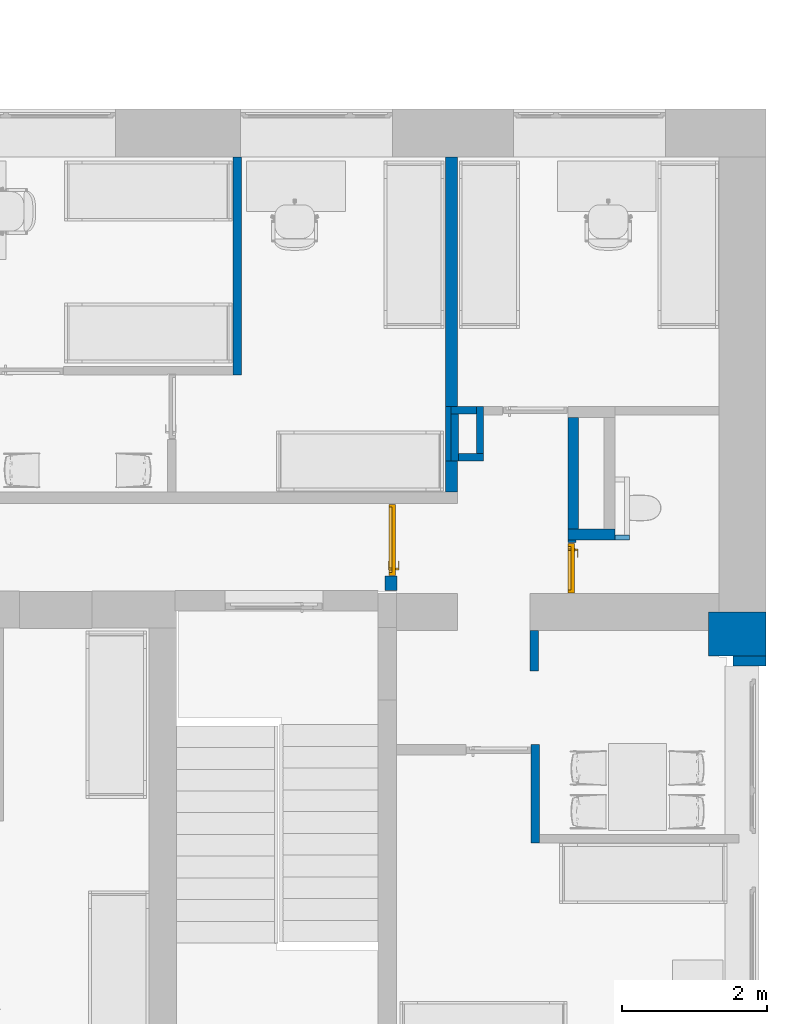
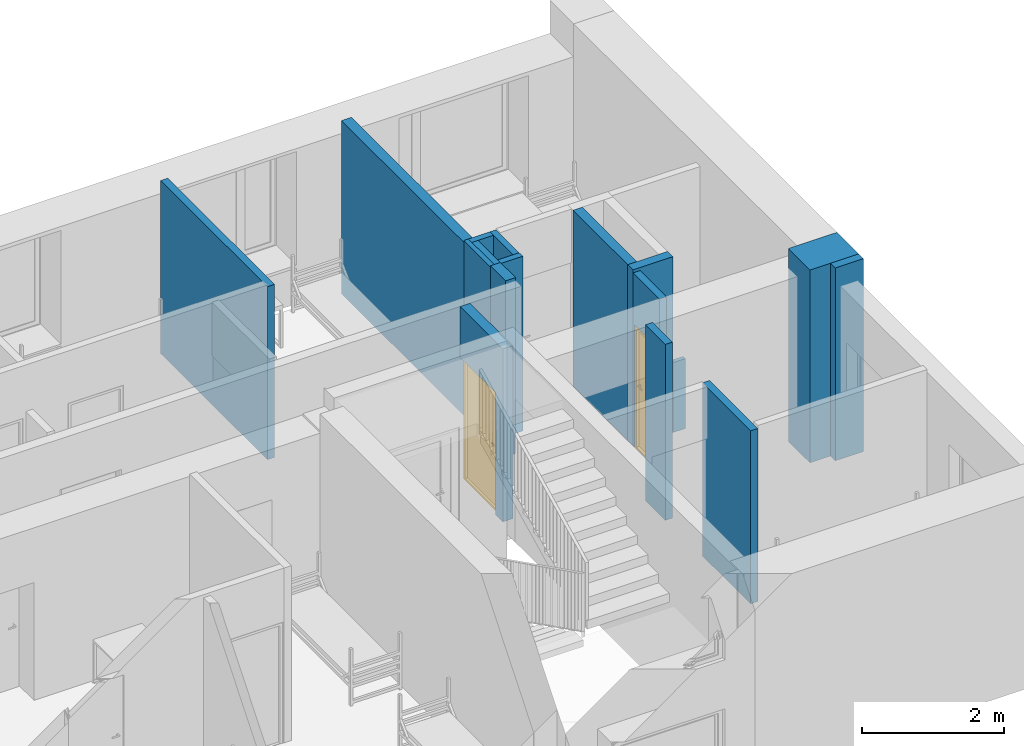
# One storey, part 13 of 48: 17 walls, 2 doors, 8 openings.
"""IFC2X3 building model written with IfcOpenShell, lengths in millimetres."""

from ifc_helpers import new_model, entity, si_unit, converted_unit, derived_unit, direction, frame, frame_2d, origin, place, context, subcontext, project, spatial, rectangle, extrude, faceted_brep, source, transform, mapped, material, material_list, layer, layer_set, layer_usage, type_object, type_shapes, element, fill, save


model = new_model("IFC2X3")

# Units and contexts
model_context = context("Model", 3, precision=0.01, world=origin(), true_north=direction((6.12303176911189e-17, 1.0)))
body_context = subcontext(model_context, "Body", "Model", "MODEL_VIEW")
ifc_project = project(units=[si_unit("LENGTHUNIT", "METRE", prefix="MILLI"), si_unit("AREAUNIT", "SQUARE_METRE"), si_unit("VOLUMEUNIT", "CUBIC_METRE"), converted_unit("PLANEANGLEUNIT", "DEGREE", entity("IfcRatioMeasure", 0.0174532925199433), si_unit("PLANEANGLEUNIT", "RADIAN"), dimensions=[0, 0, 0, 0, 0, 0, 0]), si_unit("MASSUNIT", "GRAM", prefix="KILO"), derived_unit("MASSDENSITYUNIT", [(si_unit("MASSUNIT", "GRAM", prefix="KILO"), 1), (si_unit("LENGTHUNIT", "METRE"), -3)]), si_unit("TIMEUNIT", "SECOND"), si_unit("FREQUENCYUNIT", "HERTZ"), si_unit("THERMODYNAMICTEMPERATUREUNIT", "DEGREE_CELSIUS"), derived_unit("THERMALTRANSMITTANCEUNIT", [(si_unit("MASSUNIT", "GRAM", prefix="KILO"), 1), (si_unit("THERMODYNAMICTEMPERATUREUNIT", "KELVIN"), -1), (si_unit("TIMEUNIT", "SECOND"), -3)]), derived_unit("VOLUMETRICFLOWRATEUNIT", [(si_unit("LENGTHUNIT", "METRE"), 3), (si_unit("TIMEUNIT", "SECOND"), -1)]), si_unit("ELECTRICCURRENTUNIT", "AMPERE"), si_unit("ELECTRICVOLTAGEUNIT", "VOLT"), si_unit("POWERUNIT", "WATT"), si_unit("FORCEUNIT", "NEWTON", prefix="KILO"), si_unit("ILLUMINANCEUNIT", "LUX"), si_unit("LUMINOUSFLUXUNIT", "LUMEN"), si_unit("LUMINOUSINTENSITYUNIT", "CANDELA"), derived_unit("USERDEFINED", [(si_unit("MASSUNIT", "GRAM", prefix="KILO"), -1), (si_unit("LENGTHUNIT", "METRE"), -2), (si_unit("TIMEUNIT", "SECOND"), 3), (si_unit("LUMINOUSFLUXUNIT", "LUMEN"), 1)]), derived_unit("LINEARVELOCITYUNIT", [(si_unit("LENGTHUNIT", "METRE"), 1), (si_unit("TIMEUNIT", "SECOND"), -1)]), si_unit("PRESSUREUNIT", "PASCAL"), derived_unit("USERDEFINED", [(si_unit("LENGTHUNIT", "METRE"), -2), (si_unit("MASSUNIT", "GRAM", prefix="KILO"), 1), (si_unit("TIMEUNIT", "SECOND"), -2)]), derived_unit("LINEARFORCEUNIT", [(si_unit("MASSUNIT", "GRAM", prefix="KILO"), 1), (si_unit("LENGTHUNIT", "METRE"), 1), (si_unit("TIMEUNIT", "SECOND"), -2), (si_unit("LENGTHUNIT", "METRE"), -1)]), derived_unit("PLANARFORCEUNIT", [(si_unit("MASSUNIT", "GRAM", prefix="KILO"), 1), (si_unit("LENGTHUNIT", "METRE"), 1), (si_unit("TIMEUNIT", "SECOND"), -2), (si_unit("LENGTHUNIT", "METRE"), -2)])], contexts=[model_context])

# Site, building, storey
site_placement = place(None, origin())
site = spatial("IfcSite", under=ifc_project, at=site_placement, Name="Default", CompositionType="ELEMENT")
building_placement = place(site_placement, origin())
building = spatial("IfcBuilding", under=site, at=building_placement, Name="SMA ARH", CompositionType="ELEMENT")
storey_placement = place(building_placement, frame((0.0, 0.0, 6600.0)))
storey = spatial("IfcBuildingStorey", under=building, at=storey_placement, Name="3 Korrus", CompositionType="ELEMENT", Elevation=6599.99999999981)

# Wall, opening
ifc_material_1 = material(Name="EST. Müüritis. Väikeplokk. Kergkruusplokk")
ifc_layer_1 = layer(ifc_material_1, 150.0)
ifc_layer_set_1 = layer_set([ifc_layer_1], Name="Basic Wall:SS-02_ 150mm šahtide vahesein")
ifc_layer_usage_1 = layer_usage(ifc_layer_set_1, "AXIS2", "POSITIVE", -75.0)
wall_type_1 = type_object("IfcWallType", Name="Basic Wall:SS-02_ 150mm šahtide vahesein", PredefinedType="STANDARD", material=ifc_layer_set_1)
wall_1_placement = place(storey_placement, frame((36880.0, 7295.0, 0.0), z_axis=(0.0, 0.0, 1.0), x_axis=(-1.0, 0.0, 0.0)))
wall_1 = element("IfcWallStandardCase", 1, at=wall_1_placement, inside=storey, type_object=wall_type_1, material=ifc_layer_usage_1, Name="Basic Wall:SS-02_ 150mm šahtide vahesein", ObjectType="Basic Wall:SS-02_ 150mm šahtide vahesein", context=body_context, shape_type="SweptSolid", body=[
    extrude(rectangle(XDim=649.999999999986, YDim=150.000000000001, at=frame_2d((324.999999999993, 4.68958205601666e-13), x_axis=(-1.0, 0.0))), origin(), (0.0, 0.0, 1.0), 3019.99999999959),
])
opening_1_placement = place(wall_1_placement, origin())
element("IfcOpeningElement", 2, at=opening_1_placement, cuts=wall_1, Name="Basic Wall:SS-02_ 150mm šahtide vahesein", ObjectType="Opening", context=body_context, shape_type="SweptSolid", body=[
    extrude(rectangle(XDim=2099.99999999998, YDim=116.0, at=frame_2d((0.0, -5.6843418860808e-13), x_axis=(0.0, 1.0))), frame((592.0, 115.000009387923, 1050.0), z_axis=(0.0, 1.0, 0.0), x_axis=(-1.0, 0.0, 0.0)), (0.0, 0.0, 1.0), 700.0),
])

# Wall, openings
ifc_layer_usage_2 = layer_usage(ifc_layer_set_1, "AXIS2", "POSITIVE", -75.0)
wall_2_placement = place(storey_placement, frame((36305.0, 7370.0, 0.0), z_axis=(0.0, 0.0, 1.0), x_axis=(0.0, 1.0, 0.0)))
wall_2 = element("IfcWallStandardCase", 3, at=wall_2_placement, inside=storey, type_object=wall_type_1, material=ifc_layer_usage_2, Name="Basic Wall:SS-02_ 150mm šahtide vahesein", ObjectType="Basic Wall:SS-02_ 150mm šahtide vahesein", context=body_context, shape_type="SweptSolid", body=[
    extrude(rectangle(XDim=1539.50139590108, YDim=150.000000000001, at=frame_2d((769.75069795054, 0.0), x_axis=(-1.0, 0.0))), origin(), (0.0, 0.0, 1.0), 3019.99999999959),
])
opening_2_placement = place(wall_2_placement, origin())
element("IfcOpeningElement", 4, at=opening_2_placement, cuts=wall_2, Name="Basic Wall:SS-02_ 150mm šahtide vahesein", ObjectType="Opening", context=body_context, shape_type="SweptSolid", body=[
    extrude(rectangle(XDim=2099.99999999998, YDim=116.0, at=frame_2d((0.0, 5.6843418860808e-13), x_axis=(0.0, 1.0))), frame((1631.50139590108, 75.0, 1050.0), z_axis=(0.0, 1.0, 0.0), x_axis=(1.0, 0.0, 0.0)), (0.0, 0.0, 1.0), 899.999999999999),
])
opening_3_placement = place(wall_2_placement, origin())
element("IfcOpeningElement", 5, at=opening_3_placement, cuts=wall_2, Name="Basic Wall:SS-02_ 150mm šahtide vahesein", ObjectType="Opening", context=body_context, shape_type="SweptSolid", body=[
    extrude(rectangle(XDim=2099.99999999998, YDim=700.0, at=frame_2d((-5.6843418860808e-13, -5.40012479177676e-13), x_axis=(1.0, 0.0))), frame((-540.000009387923, -1449.0, 1050.0), z_axis=(0.0, 1.0, 0.0), x_axis=(0.0, 0.0, 1.0)), (0.0, 0.0, 1.0), 3048.0),
])

# Wall, opening
ifc_material_2 = material(Name="_ol.olev sein")
ifc_layer_2 = layer(ifc_material_2, 790.0)
ifc_layer_set_2 = layer_set([ifc_layer_2], Name="Basic Wall:Generic - 790mm")
ifc_layer_usage_3 = layer_usage(ifc_layer_set_2, "AXIS2", "NEGATIVE", 395.0)
wall_type_2 = type_object("IfcWallType", Name="Basic Wall:Generic - 790mm", PredefinedType="STANDARD", material=ifc_layer_set_2)
wall_3_placement = place(storey_placement, frame((38570.0, 6225.0, 0.0), z_axis=(0.0, 0.0, 1.0), x_axis=(0.0, -1.0, 0.0)))
wall_3 = element("IfcWallStandardCase", 6, at=wall_3_placement, inside=storey, type_object=wall_type_2, material=ifc_layer_usage_3, Name="Basic Wall:Generic - 790mm", ObjectType="Basic Wall:Generic - 790mm", context=body_context, shape_type="SweptSolid", body=[
    extrude(rectangle(XDim=609.99999999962, YDim=790.000000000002, at=frame_2d((304.99999999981, 0.0), x_axis=(-1.0, 0.0))), origin(), (0.0, 0.0, 1.0), 3309.99999999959),
])
opening_4_placement = place(wall_3_placement, origin())
element("IfcOpeningElement", 7, at=opening_4_placement, cuts=wall_3, Name="Basic Wall:Generic - 790mm", ObjectType="Opening", context=body_context, shape_type="SweptSolid", body=[
    extrude(rectangle(XDim=1300.0, YDim=2130.0, at=frame_2d((5.11590769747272e-13, 5.6843418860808e-13), x_axis=(1.0, 0.0))), frame((1990.0, -1504.09900086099, 1450.0), z_axis=(0.0, 1.0, 0.0), x_axis=(0.0, 0.0, 1.0)), (0.0, 0.0, 1.0), 3048.0),
])

ifc_layer_3 = layer(ifc_material_2, 457.0)
ifc_layer_set_3 = layer_set([ifc_layer_3], Name="Basic Wall:Generic - 457mm")
ifc_layer_usage_4 = layer_usage(ifc_layer_set_3, "AXIS2", "NEGATIVE", 228.5)
wall_type_3 = type_object("IfcWallType", Name="Basic Wall:Generic - 457mm", PredefinedType="STANDARD", material=ifc_layer_set_3)
wall_4_placement = place(storey_placement, frame((38736.5990008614, 5615.0, 0.0), z_axis=(0.0, 0.0, 1.0), x_axis=(0.0, -1.0, 0.0)))
wall_4 = element("IfcWallStandardCase", 8, at=wall_4_placement, inside=storey, type_object=wall_type_3, material=ifc_layer_usage_4, Name="Basic Wall:Generic - 457mm", ObjectType="Basic Wall:Generic - 457mm", context=body_context, shape_type="SweptSolid", body=[
    extrude(rectangle(XDim=135.000000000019, YDim=457.0, at=frame_2d((67.5000000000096, 0.0), x_axis=(-1.0, 0.0))), origin(), (0.0, 0.0, 1.0), 3309.99999999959),
])
opening_5_placement = place(wall_4_placement, origin())
element("IfcOpeningElement", 9, at=opening_5_placement, cuts=wall_4, Name="Basic Wall:Generic - 457mm", ObjectType="Opening", context=body_context, shape_type="SweptSolid", body=[
    extrude(rectangle(XDim=1300.0, YDim=2130.0, at=frame_2d((5.11590769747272e-13, 5.6843418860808e-13), x_axis=(1.0, 0.0))), frame((1380.0, -1670.69800172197, 1450.0), z_axis=(0.0, 1.0, 0.0), x_axis=(0.0, 0.0, 1.0)), (0.0, 0.0, 1.0), 3048.0),
])

# Wall, opening, door
ifc_material_3 = material(Name="EST. Ehitusplaat. Kipsplaat")
ifc_layer_4 = layer(ifc_material_3, 12.5)
ifc_layer_5 = layer(ifc_material_3, 12.5)
ifc_material_4 = material(Name="EST. Soojustus. Mineraalvill. Default")
ifc_layer_6 = layer(ifc_material_4, 50.0)
ifc_layer_7 = layer(ifc_material_3, 12.5)
ifc_layer_8 = layer(ifc_material_4, 50.0)
ifc_layer_9 = layer(ifc_material_3, 12.5)
ifc_layer_10 = layer(ifc_material_3, 12.5)
ifc_layer_set_4 = layer_set([ifc_layer_4, ifc_layer_5, ifc_layer_6, ifc_layer_7, ifc_layer_8, ifc_layer_9, ifc_layer_10], Name="Basic Wall:SS-04_Kips, 50+50 mm metallkarkass 2")
ifc_layer_usage_5 = layer_usage(ifc_layer_set_4, "AXIS2", "NEGATIVE", 81.25)
wall_type_4 = type_object("IfcWallType", Name="Basic Wall:SS-04_Kips, 50+50 mm metallkarkass 2", PredefinedType="STANDARD", material=ifc_layer_set_4)
wall_5_placement = place(storey_placement, frame((33792.5000000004, 7720.0, 0.0), z_axis=(0.0, 0.0, 1.0), x_axis=(0.0, -1.0, 0.0)))
wall_5 = element("IfcWallStandardCase", 10, at=wall_5_placement, inside=storey, type_object=wall_type_4, material=ifc_layer_usage_5, Name="Basic Wall:SS-04_Kips, 50+50 mm metallkarkass 2", ObjectType="Basic Wall:SS-04_Kips, 50+50 mm metallkarkass 2", context=body_context, shape_type="SweptSolid", body=[
    extrude(rectangle(XDim=1200.00000000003, YDim=162.499999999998, at=frame_2d((600.000000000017, 0.0), x_axis=(-1.0, 0.0))), origin(), (0.0, 0.0, 1.0), 2970.00000000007),
])
opening_6_placement = place(wall_5_placement, frame((0.0, -81.2499999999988, 0.0)))
opening_6 = element("IfcOpeningElement", 11, at=opening_6_placement, cuts=wall_5, Name="SMA_D01, 1-poolne:SU-P-04 - 1000x2100 EI-30:1", ObjectType="Opening", context=body_context, shape_type="SweptSolid", body=[
    extrude(rectangle(XDim=2099.99999999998, YDim=1000.0, at=frame_2d((1049.99999999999, 500.0), x_axis=(1.0, 0.0))), frame((0.0, 0.0, 0.0), z_axis=(0.0, 1.0, 0.0), x_axis=(0.0, 0.0, 1.0)), (0.0, 0.0, 1.0), 162.5),
])
ifc_material_5 = material(Name="EST. Metall. Alumiinium. Värvitud. RAL7023 (Concrete grey)")
ifc_material_6 = material(Name="<Unnamed>")
ifc_material_7 = material(Name="EST. Klaas. 3x. Default")
ifc_material_list_1 = material_list([ifc_material_5, ifc_material_5, ifc_material_5, ifc_material_6, ifc_material_7, ifc_material_6, ifc_material_6])
door_style_1 = type_object("IfcDoorStyle", Name="SMA_D01, 1-poolne:SU-P-04 - 1000x2100 EI-30", ConstructionType="NOTDEFINED", OperationType="SINGLE_SWING_LEFT", ParameterTakesPrecedence=False, Sizeable=False, material=ifc_material_list_1)
shared_shape_1 = source(origin(), body_context, "Body", "Brep", [
    faceted_brep([(890.0, 52.5000000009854, 1112.5), (795.0, 52.5000000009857, 1112.5), (795.0, 47.5000000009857, 1112.5), (915.0, 47.5000000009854, 1112.5), (915.0, 90.5000000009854, 1112.5), (890.0, 90.5000000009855, 1112.5), (890.0, 52.5000000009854, 1087.5), (890.0, 90.5000000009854, 1087.5), (915.0, 90.5000000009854, 1087.5), (915.0, 47.5000000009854, 1087.5), (795.0, 47.5000000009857, 1087.5), (795.0, 52.5000000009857, 1087.5)], [[[0, 1, 2, 3, 4, 5]], [[6, 7, 8, 9, 10, 11]], [[5, 7, 6, 0]], [[4, 8, 7, 5]], [[3, 9, 8, 4]], [[2, 10, 9, 3]], [[1, 11, 10, 2]], [[0, 6, 11, 1]]]),
    faceted_brep([(877.500000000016, 90.5000000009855, 1137.5), (927.500000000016, 90.5000000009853, 1137.5), (927.500000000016, 92.5000000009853, 1137.5), (877.500000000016, 92.5000000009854, 1137.5), (877.500000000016, 90.5000000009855, 1017.5), (877.500000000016, 92.5000000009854, 1017.5), (927.500000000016, 92.5000000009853, 1017.5), (927.500000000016, 90.5000000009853, 1017.5)], [[[0, 1, 2, 3]], [[4, 5, 6, 7]], [[3, 5, 4, 0]], [[2, 6, 5, 3]], [[1, 7, 6, 2]], [[0, 4, 7, 1]]]),
    faceted_brep([(890.0, 182.500000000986, 1112.5), (890.0, 144.500000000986, 1112.5), (915.0, 144.500000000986, 1112.5), (915.0, 187.500000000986, 1112.5), (795.0, 187.500000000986, 1112.5), (795.0, 182.500000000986, 1112.5), (890.0, 182.500000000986, 1087.5), (795.0, 182.500000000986, 1087.5), (795.0, 187.500000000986, 1087.5), (915.0, 187.500000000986, 1087.5), (915.0, 144.500000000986, 1087.5), (890.0, 144.500000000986, 1087.5)], [[[0, 1, 2, 3, 4, 5]], [[6, 7, 8, 9, 10, 11]], [[1, 0, 6, 11]], [[2, 1, 11, 10]], [[3, 2, 10, 9]], [[4, 3, 9, 8]], [[5, 4, 8, 7]], [[0, 5, 7, 6]]]),
    faceted_brep([(877.500000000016, 144.500000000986, 1137.5), (877.500000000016, 142.500000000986, 1137.5), (927.500000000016, 142.500000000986, 1137.5), (927.500000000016, 144.500000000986, 1137.5), (877.500000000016, 144.500000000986, 1017.5), (927.500000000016, 144.500000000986, 1017.5), (927.500000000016, 142.500000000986, 1017.5), (877.500000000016, 142.500000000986, 1017.5)], [[[0, 1, 2, 3]], [[4, 5, 6, 7]], [[1, 0, 4, 7]], [[2, 1, 7, 6]], [[3, 2, 6, 5]], [[0, 3, 5, 4]]]),
    faceted_brep([(50.0, 52.5000000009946, 30.0), (50.0, 92.5000000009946, 30.0), (50.0, 92.5000000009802, 20.0), (50.0, 92.5000000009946, 0.0), (50.0, 52.5000000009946, 0.0), (950.0, 52.5000000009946, 30.0), (950.0, 52.5000000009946, 0.0), (950.0, 92.5000000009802, 0.0), (950.0, 92.5000000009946, 20.0), (950.0, 92.5000000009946, 30.0), (35.0, 92.5000000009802, 0.0), (35.0, 142.500000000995, 0.0), (965.0, 142.500000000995, 0.0), (965.0, 92.5000000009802, 0.0), (35.0, 142.500000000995, 20.0), (35.0, 92.5000000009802, 20.0), (965.0, 142.500000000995, 20.0), (965.0, 92.5000000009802, 20.0)], [[[0, 1, 2, 3, 4]], [[5, 6, 7, 8, 9]], [[4, 6, 5, 0]], [[3, 10, 11, 12, 13, 7, 6, 4]], [[9, 8, 2, 1]], [[0, 5, 9, 1]], [[14, 11, 10, 15]], [[16, 17, 13, 12]], [[15, 2, 8, 17, 16, 14]], [[10, 3, 2, 15]], [[14, 16, 12, 11]], [[17, 8, 7, 13]]]),
    faceted_brep([(10.0, 52.5000000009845, 0.0), (10.0, 142.500000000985, 0.0), (35.0, 142.500000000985, 0.0), (35.0, 92.5000000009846, 0.0), (50.0, 92.5000000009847, 0.0), (50.0, 52.5000000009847, 0.0), (50.0, 52.5000000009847, 2050.0), (950.0, 52.5000000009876, 2050.0), (950.0, 52.5000000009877, 0.0), (990.0, 52.5000000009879, 0.0), (990.0, 52.5000000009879, 2090.0), (10.0, 52.5000000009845, 2090.0), (50.0, 92.5000000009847, 2050.0), (35.0, 92.5000000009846, 2065.0), (965.0, 92.5000000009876, 2065.0), (965.0, 92.5000000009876, 0.0), (950.0, 92.5000000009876, 0.0), (950.0, 92.5000000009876, 2050.0), (35.0, 142.500000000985, 2065.0), (10.0, 142.500000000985, 2090.0), (990.0, 142.500000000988, 2090.0), (990.0, 142.500000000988, 0.0), (965.0, 142.500000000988, 0.0), (965.0, 142.500000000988, 2065.0)], [[[0, 1, 2, 3, 4, 5]], [[5, 6, 7, 8, 9, 10, 11, 0]], [[4, 12, 6, 5]], [[3, 13, 14, 15, 16, 17, 12, 4]], [[2, 18, 13, 3]], [[1, 19, 20, 21, 22, 23, 18, 2]], [[0, 11, 19, 1]], [[9, 21, 20, 10]], [[8, 16, 15, 22, 21, 9]], [[7, 17, 16, 8]], [[14, 23, 22, 15]], [[6, 12, 17, 7]], [[13, 18, 23, 14]], [[10, 20, 19, 11]]]),
    faceted_brep([(965.0, 92.5000000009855, 2065.0), (35.0, 92.5000000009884, 2065.0), (35.0, 92.5000000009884, 20.0), (965.0, 92.5000000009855, 20.0), (965.0, 142.500000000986, 2065.0), (965.0, 142.500000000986, 20.0), (35.0, 142.500000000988, 20.0), (35.0, 142.500000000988, 2065.0)], [[[0, 1, 2, 3]], [[4, 5, 6, 7]], [[3, 5, 4, 0]], [[2, 6, 5, 3]], [[1, 7, 6, 2]], [[0, 4, 7, 1]]]),
])
type_shapes(door_style_1, [shared_shape_1])
door_1_placement = place(opening_6_placement, origin())
door_1 = element("IfcDoor", 12, at=door_1_placement, inside=storey, type_object=door_style_1, material=ifc_material_5, Name="SMA_D01, 1-poolne:SU-P-04 - 1000x2100 EI-30", ObjectType="SMA_D01, 1-poolne:SU-P-04 - 1000x2100 EI-30", OverallHeight=2099.99999999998, OverallWidth=999.999999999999, context=body_context, shape_type="MappedRepresentation", body=[
    mapped(shared_shape_1, transform((0.0, 0.0, 0.0), scale=1.0)),
])
fill(opening_6, door_1)

# Walls
ifc_layer_usage_6 = layer_usage(ifc_layer_set_4, "AXIS2", "NEGATIVE", 81.25)
wall_6_placement = place(storey_placement, frame((34625.5000000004, 12500.0, 0.0), z_axis=(0.0, 0.0, 1.0), x_axis=(0.0, -1.0, 0.0)))
element("IfcWallStandardCase", 13, at=wall_6_placement, inside=storey, type_object=wall_type_4, material=ifc_layer_usage_6, Name="Basic Wall:SS-04_Kips, 50+50 mm metallkarkass 2", ObjectType="Basic Wall:SS-04_Kips, 50+50 mm metallkarkass 2", context=body_context, shape_type="SweptSolid", body=[
    extrude(rectangle(XDim=3440.49859471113, YDim=162.499999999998, at=frame_2d((1720.24929735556, 1.70530256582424e-13), x_axis=(-1.0, 0.0))), origin(), (0.0, 0.0, 1.0), 2970.00000000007),
])
ifc_layer_usage_7 = layer_usage(ifc_layer_set_4, "AXIS2", "NEGATIVE", 81.25)
wall_7_placement = place(storey_placement, frame((34625.5000000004, 8309.50140528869, 0.0), z_axis=(0.0, 0.0, 1.0), x_axis=(0.0, -1.0, 0.0)))
element("IfcWallStandardCase", 14, at=wall_7_placement, inside=storey, type_object=wall_type_4, material=ifc_layer_usage_7, Name="Basic Wall:SS-04_Kips, 50+50 mm metallkarkass 2", ObjectType="Basic Wall:SS-04_Kips, 50+50 mm metallkarkass 2", context=body_context, shape_type="SweptSolid", body=[
    extrude(rectangle(XDim=427.001405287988, YDim=162.499999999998, at=frame_2d((213.500702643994, 0.0), x_axis=(-1.0, 0.0))), origin(), (0.0, 0.0, 1.0), 3019.99999999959),
])
ifc_layer_11 = layer(ifc_material_3, 12.5)
ifc_layer_12 = layer(ifc_material_3, 12.5)
ifc_layer_13 = layer(ifc_material_4, 66.0)
ifc_layer_14 = layer(ifc_material_3, 12.5)
ifc_layer_15 = layer(ifc_material_3, 12.5)
ifc_layer_set_5 = layer_set([ifc_layer_11, ifc_layer_12, ifc_layer_13, ifc_layer_14, ifc_layer_15], Name="Basic Wall:SS-05_Kips, 66mm metallkarkass")
ifc_layer_usage_8 = layer_usage(ifc_layer_set_5, "AXIS2", "NEGATIVE", 58.0)
wall_type_5 = type_object("IfcWallType", Name="Basic Wall:SS-05_Kips, 66mm metallkarkass", PredefinedType="STANDARD", material=ifc_layer_set_5)
wall_8_placement = place(storey_placement, frame((31667.5000000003, 12500.0, 0.0), z_axis=(0.0, 0.0, 1.0), x_axis=(0.0, -1.0, 0.0)))
element("IfcWallStandardCase", 15, at=wall_8_placement, inside=storey, type_object=wall_type_5, material=ifc_layer_usage_8, Name="Basic Wall:SS-05_Kips, 66mm metallkarkass", ObjectType="Basic Wall:SS-05_Kips, 66mm metallkarkass", context=body_context, shape_type="SweptSolid", body=[
    extrude(rectangle(XDim=3005.49999999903, YDim=116.0, at=frame_2d((1502.74999999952, -1.27897692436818e-13), x_axis=(-1.0, 0.0))), origin(), (0.0, 0.0, 1.0), 2970.00000000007),
])

# Wall, opening
ifc_layer_usage_9 = layer_usage(ifc_layer_set_5, "AXIS2", "NEGATIVE", 58.0)
wall_9_placement = place(storey_placement, frame((35783.5000000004, 3039.50000000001, 0.0), z_axis=(0.0, 0.0, 1.0), x_axis=(0.0, 1.0, 0.0)))
wall_9 = element("IfcWallStandardCase", 16, at=wall_9_placement, inside=storey, type_object=wall_type_5, material=ifc_layer_usage_9, Name="Basic Wall:SS-05_Kips, 66mm metallkarkass", ObjectType="Basic Wall:SS-05_Kips, 66mm metallkarkass", context=body_context, shape_type="SweptSolid", body=[
    extrude(rectangle(XDim=1358.99999999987, YDim=116.0, at=frame_2d((679.499999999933, 0.0), x_axis=(-1.0, 0.0))), origin(), (0.0, 0.0, 1.0), 2970.00000000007),
])
opening_7_placement = place(wall_9_placement, origin())
element("IfcOpeningElement", 17, at=opening_7_placement, cuts=wall_9, Name="Basic Wall:SS-05_Kips, 66mm metallkarkass", ObjectType="Opening", context=body_context, shape_type="SweptSolid", body=[
    extrude(rectangle(XDim=2099.99999999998, YDim=145.0, at=frame_2d((2.70006239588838e-13, 5.6843418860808e-13), x_axis=(0.0, 1.0))), frame((1286.49999999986, 58.0, 1050.0), z_axis=(0.0, 1.0, 0.0), x_axis=(1.0, 0.0, 0.0)), (0.0, 0.0, 1.0), 900.000000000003),
])

# Wall
ifc_layer_16 = layer(ifc_material_3, 12.5)
ifc_layer_17 = layer(ifc_material_3, 12.5)
ifc_material_8 = material(Name="EST. Õhkvahe. Roov. Kipsplaadi alusroov. Vertikaalne")
ifc_layer_18 = layer(ifc_material_8, 66.0)
ifc_layer_19 = layer(ifc_material_3, 12.5)
ifc_layer_20 = layer(ifc_material_3, 12.5)
ifc_layer_set_6 = layer_set([ifc_layer_16, ifc_layer_17, ifc_layer_18, ifc_layer_19, ifc_layer_20], Name="Basic Wall:SS-03_Kips, 66mm metallkarkass")
ifc_layer_usage_10 = layer_usage(ifc_layer_set_6, "AXIS2", "NEGATIVE", 58.0)
wall_type_6 = type_object("IfcWallType", Name="Basic Wall:SS-03_Kips, 66mm metallkarkass", PredefinedType="STANDARD", material=ifc_layer_set_6)
wall_10_placement = place(storey_placement, frame((35768.0, 5970.0, 0.0), z_axis=(0.0, 0.0, 1.0), x_axis=(0.0, -1.0, 0.0)))
element("IfcWallStandardCase", 18, at=wall_10_placement, inside=storey, type_object=wall_type_6, material=ifc_layer_usage_10, Name="Basic Wall:SS-03_Kips, 66mm metallkarkass", ObjectType="Basic Wall:SS-03_Kips, 66mm metallkarkass", context=body_context, shape_type="SweptSolid", body=[
    extrude(rectangle(XDim=559.999999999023, YDim=116.0, at=frame_2d((279.999999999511, 0.0), x_axis=(-1.0, 0.0))), origin(), (0.0, 0.0, 1.0), 3019.99999999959),
])

# Wall, opening, door
ifc_layer_usage_11 = layer_usage(ifc_layer_set_6, "AXIS2", "NEGATIVE", 58.0)
wall_11_placement = place(storey_placement, frame((36288.0, 7220.0, 0.0), z_axis=(0.0, 0.0, 1.0), x_axis=(0.0, -1.0, 0.0)))
wall_11 = element("IfcWallStandardCase", 19, at=wall_11_placement, inside=storey, type_object=wall_type_6, material=ifc_layer_usage_11, Name="Basic Wall:SS-03_Kips, 66mm metallkarkass", ObjectType="Basic Wall:SS-03_Kips, 66mm metallkarkass", context=body_context, shape_type="SweptSolid", body=[
    extrude(rectangle(XDim=740.000009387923, YDim=116.0, at=frame_2d((370.000004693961, 0.0), x_axis=(-1.0, 0.0))), origin(), (0.0, 0.0, 1.0), 2970.00000000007),
])
opening_8_placement = place(wall_11_placement, frame((40.0, -58.0, 0.0)))
opening_8 = element("IfcOpeningElement", 20, at=opening_8_placement, cuts=wall_11, Name="SMA_D01, 1-poolne:SU-P-08 - 700x2100 DUŠŠ:1", ObjectType="Opening", context=body_context, shape_type="SweptSolid", body=[
    extrude(rectangle(XDim=2099.99999999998, YDim=700.0, at=frame_2d((1049.99999999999, 350.0), x_axis=(1.0, 0.0))), frame((0.0, 0.0, 0.0), z_axis=(0.0, 1.0, 0.0), x_axis=(0.0, 0.0, 1.0)), (0.0, 0.0, 1.0), 116.0),
])
ifc_material_list_2 = material_list([ifc_material_5, ifc_material_7, ifc_material_6, ifc_material_5, ifc_material_6, ifc_material_6, ifc_material_5])
door_style_2 = type_object("IfcDoorStyle", Name="SMA_D01, 1-poolne:SU-P-08 - 700x2100 DUŠŠ", ConstructionType="NOTDEFINED", OperationType="NOTDEFINED", ParameterTakesPrecedence=False, Sizeable=False, material=ifc_material_list_2)
shared_shape_2 = source(origin(), body_context, "Body", "Brep", [
    faceted_brep([(110.0, 6.0, 1112.5), (110.0, 44.0, 1112.5), (85.0, 44.0, 1112.5), (85.0, 1.0, 1112.5), (205.0, 1.0, 1112.5), (205.0, 6.0, 1112.5), (110.0, 6.0, 1087.5), (205.0, 6.0, 1087.5), (205.0, 1.0, 1087.5), (85.0, 1.0, 1087.5), (85.0, 44.0, 1087.5), (110.0, 44.0, 1087.5)], [[[0, 1, 2, 3, 4, 5]], [[6, 7, 8, 9, 10, 11]], [[1, 0, 6, 11]], [[2, 1, 11, 10]], [[3, 2, 10, 9]], [[4, 3, 9, 8]], [[5, 4, 8, 7]], [[0, 5, 7, 6]]]),
    faceted_brep([(122.5, 44.0, 1137.5), (122.5, 46.0, 1137.5), (72.4999999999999, 46.0, 1137.5), (72.4999999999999, 44.0, 1137.5), (122.5, 44.0, 1017.5), (72.4999999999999, 44.0, 1017.5), (72.4999999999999, 46.0, 1017.5), (122.5, 46.0, 1017.5)], [[[0, 1, 2, 3]], [[4, 5, 6, 7]], [[1, 0, 4, 7]], [[2, 1, 7, 6]], [[3, 2, 6, 5]], [[0, 3, 5, 4]]]),
    faceted_brep([(110.0, 136.0, 1112.5), (205.0, 136.0, 1112.5), (205.0, 141.0, 1112.5), (85.0, 141.0, 1112.5), (85.0, 98.0, 1112.5), (110.0, 98.0, 1112.5), (110.0, 136.0, 1087.5), (110.0, 98.0, 1087.5), (85.0, 98.0, 1087.5), (85.0, 141.0, 1087.5), (205.0, 141.0, 1087.5), (205.0, 136.0, 1087.5)], [[[0, 1, 2, 3, 4, 5]], [[6, 7, 8, 9, 10, 11]], [[5, 7, 6, 0]], [[4, 8, 7, 5]], [[3, 9, 8, 4]], [[2, 10, 9, 3]], [[1, 11, 10, 2]], [[0, 6, 11, 1]]]),
    faceted_brep([(122.5, 98.0, 1137.5), (72.4999999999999, 98.0, 1137.5), (72.4999999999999, 96.0, 1137.5), (122.5, 96.0, 1137.5), (122.5, 98.0, 1017.5), (122.5, 96.0, 1017.5), (72.4999999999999, 96.0, 1017.5), (72.4999999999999, 98.0, 1017.5)], [[[0, 1, 2, 3]], [[4, 5, 6, 7]], [[3, 5, 4, 0]], [[2, 6, 5, 3]], [[1, 7, 6, 2]], [[0, 4, 7, 1]]]),
    faceted_brep([(650.0, 6.0, 30.0), (650.0, 6.0, 0.0), (650.0, 46.0, 0.0), (650.0, 46.0, 20.0), (650.0, 46.0, 30.0), (50.0, 6.0, 30.0), (50.0, 46.0, 30.0), (50.0, 46.0, 20.0), (50.0, 46.0, 0.0), (50.0, 6.0, 0.0), (35.0, 46.0, 0.0), (35.0, 96.0, 0.0), (665.0, 96.0, 0.0), (665.0, 46.0, 0.0), (665.0, 96.0, 20.0), (665.0, 46.0, 20.0), (35.0, 96.0, 20.0), (35.0, 46.0, 20.0)], [[[0, 1, 2, 3, 4]], [[5, 6, 7, 8, 9]], [[1, 0, 5, 9]], [[2, 1, 9, 8, 10, 11, 12, 13]], [[6, 4, 3, 7]], [[0, 4, 6, 5]], [[14, 15, 13, 12]], [[16, 11, 10, 17]], [[15, 14, 16, 17, 7, 3]], [[13, 15, 3, 2]], [[14, 12, 11, 16]], [[17, 10, 8, 7]]]),
    faceted_brep([(690.0, 6.0, 0.0), (650.0, 6.0, 0.0), (650.0, 46.0, 0.0), (665.0, 46.0, 0.0), (665.0, 96.0, 0.0), (690.0, 96.0, 0.0), (690.0, 6.0, 2090.0), (10.0, 6.0, 2090.0), (10.0, 6.0, 0.0), (50.0, 6.0, 0.0), (50.0, 6.0, 2050.0), (650.0, 6.0, 2050.0), (650.0, 46.0, 2050.0), (50.0, 46.0, 2050.0), (50.0, 46.0, 0.0), (35.0, 46.0, 0.0), (35.0, 46.0, 2065.0), (665.0, 46.0, 2065.0), (665.0, 96.0, 2065.0), (35.0, 96.0, 2065.0), (35.0, 96.0, 0.0), (10.0, 96.0, 0.0), (10.0, 96.0, 2090.0), (690.0, 96.0, 2090.0)], [[[0, 1, 2, 3, 4, 5]], [[1, 0, 6, 7, 8, 9, 10, 11]], [[2, 1, 11, 12]], [[3, 2, 12, 13, 14, 15, 16, 17]], [[4, 3, 17, 18]], [[5, 4, 18, 19, 20, 21, 22, 23]], [[0, 5, 23, 6]], [[8, 7, 22, 21]], [[9, 8, 21, 20, 15, 14]], [[10, 9, 14, 13]], [[16, 15, 20, 19]], [[11, 10, 13, 12]], [[17, 16, 19, 18]], [[7, 6, 23, 22]]]),
    faceted_brep([(35.0, 46.0, 2065.0), (35.0, 46.0, 20.0), (665.0, 46.0, 20.0), (665.0, 46.0, 2065.0), (35.0, 96.0, 2065.0), (665.0, 96.0, 2065.0), (665.0, 96.0, 20.0), (35.0, 96.0, 20.0)], [[[0, 1, 2, 3]], [[4, 5, 6, 7]], [[1, 0, 4, 7]], [[2, 1, 7, 6]], [[3, 2, 6, 5]], [[0, 3, 5, 4]]]),
])
type_shapes(door_style_2, [shared_shape_2])
door_2_placement = place(opening_8_placement, origin())
door_2 = element("IfcDoor", 21, at=door_2_placement, inside=storey, type_object=door_style_2, material=ifc_material_5, Name="SMA_D01, 1-poolne:SU-P-08 - 700x2100 DUŠŠ", ObjectType="SMA_D01, 1-poolne:SU-P-08 - 700x2100 DUŠŠ", OverallHeight=2099.99999999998, OverallWidth=700.0, context=body_context, shape_type="MappedRepresentation", body=[
    mapped(shared_shape_2, transform((0.0, 0.0, 0.0), scale=1.0)),
])
fill(opening_8, door_2)

# Walls
ifc_material_9 = material(Name="EST. Põrand. Plaatkate")
ifc_layer_21 = layer(ifc_material_9, 10.0)
ifc_layer_22 = layer(ifc_material_3, 12.5)
ifc_layer_23 = layer(ifc_material_8, 42.0)
ifc_layer_set_7 = layer_set([ifc_layer_21, ifc_layer_22, ifc_layer_23], Name="Basic Wall:SS-04 - loputuskast")
ifc_layer_usage_12 = layer_usage(ifc_layer_set_7, "AXIS2", "NEGATIVE", 32.25)
wall_type_7 = type_object("IfcWallType", Name="Basic Wall:SS-04 - loputuskast", PredefinedType="STANDARD", material=ifc_layer_set_7)
wall_12_placement = place(storey_placement, frame((37080.0, 7252.25000938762, 0.0), z_axis=(0.0, 0.0, 1.0), x_axis=(-1.0, 0.0, 0.0)))
element("IfcWallStandardCase", 22, at=wall_12_placement, inside=storey, type_object=wall_type_7, material=ifc_layer_usage_12, Name="Basic Wall:SS-04 - loputuskast", ObjectType="Basic Wall:SS-04 - loputuskast", context=body_context, shape_type="SweptSolid", body=[
    extrude(rectangle(XDim=199.999999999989, YDim=64.5000000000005, at=frame_2d((99.9999999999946, -4.36983782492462e-13), x_axis=(-1.0, 0.0))), origin(), (0.0, 0.0, 1.0), 1200.0),
])
ifc_layer_24 = layer(ifc_material_1, 100.0)
ifc_layer_set_8 = layer_set([ifc_layer_24], Name="Basic Wall:SS-02_ 100mm šahtide vahesein 2")
ifc_layer_usage_13 = layer_usage(ifc_layer_set_8, "AXIS2", "NEGATIVE", 50.0)
wall_type_8 = type_object("IfcWallType", Name="Basic Wall:SS-02_ 100mm šahtide vahesein 2", PredefinedType="STANDARD", material=ifc_layer_set_8)
wall_13_placement = place(storey_placement, frame((34619.2500000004, 9009.5014052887, 0.0)))
element("IfcWallStandardCase", 23, at=wall_13_placement, inside=storey, type_object=wall_type_8, material=ifc_layer_usage_13, Name="Basic Wall:SS-02_ 100mm šahtide vahesein 2", ObjectType="Basic Wall:SS-02_ 100mm šahtide vahesein 2", context=body_context, shape_type="SweptSolid", body=[
    extrude(rectangle(XDim=350.000000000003, YDim=99.9999999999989, at=frame_2d((175.000000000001, 6.3948846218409e-14), x_axis=(-1.0, 0.0))), origin(), (0.0, 0.0, 1.0), 2999.99999999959),
])
ifc_layer_usage_14 = layer_usage(ifc_layer_set_8, "AXIS2", "NEGATIVE", 50.0)
wall_14_placement = place(storey_placement, frame((34669.2500000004, 8959.5014052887, 0.0), z_axis=(0.0, 0.0, 1.0), x_axis=(0.0, -1.0, 0.0)))
element("IfcWallStandardCase", 24, at=wall_14_placement, inside=storey, type_object=wall_type_8, material=ifc_layer_usage_14, Name="Basic Wall:SS-02_ 100mm šahtide vahesein 2", ObjectType="Basic Wall:SS-02_ 100mm šahtide vahesein 2", context=body_context, shape_type="SweptSolid", body=[
    extrude(rectangle(XDim=650.00000000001, YDim=100.000000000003, at=frame_2d((325.000000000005, 0.0), x_axis=(-1.0, 0.0))), origin(), (0.0, 0.0, 1.0), 2999.99999999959),
])
ifc_layer_usage_15 = layer_usage(ifc_layer_set_8, "AXIS2", "NEGATIVE", 50.0)
wall_15_placement = place(storey_placement, frame((34719.2500000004, 8359.50140528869, 0.0)))
element("IfcWallStandardCase", 25, at=wall_15_placement, inside=storey, type_object=wall_type_8, material=ifc_layer_usage_15, Name="Basic Wall:SS-02_ 100mm šahtide vahesein 2", ObjectType="Basic Wall:SS-02_ 100mm šahtide vahesein 2", context=body_context, shape_type="SweptSolid", body=[
    extrude(rectangle(XDim=350.000000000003, YDim=100.000000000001, at=frame_2d((175.000000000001, 6.3948846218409e-14), x_axis=(-1.0, 0.0))), origin(), (0.0, 0.0, 1.0), 2999.99999999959),
])
ifc_layer_usage_16 = layer_usage(ifc_layer_set_8, "AXIS2", "POSITIVE", -50.0)
wall_16_placement = place(storey_placement, frame((35019.2500000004, 9059.5014052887, 0.0), z_axis=(0.0, 0.0, 1.0), x_axis=(0.0, -1.0, 0.0)))
element("IfcWallStandardCase", 26, at=wall_16_placement, inside=storey, type_object=wall_type_8, material=ifc_layer_usage_16, Name="Basic Wall:SS-02_ 100mm šahtide vahesein 2", ObjectType="Basic Wall:SS-02_ 100mm šahtide vahesein 2", context=body_context, shape_type="SweptSolid", body=[
    extrude(rectangle(XDim=650.000000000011, YDim=100.000000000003, at=frame_2d((325.000000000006, 0.0), x_axis=(-1.0, 0.0))), origin(), (0.0, 0.0, 1.0), 2999.99999999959),
])
ifc_layer_25 = layer(ifc_material_8, 50.0)
ifc_layer_26 = layer(ifc_material_3, 12.5)
ifc_layer_27 = layer(ifc_material_3, 12.5)
ifc_layer_set_9 = layer_set([ifc_layer_25, ifc_layer_26, ifc_layer_27], Name="Basic Wall:SS-05_Kips, 50mm metallkarkass 2")
ifc_layer_usage_17 = layer_usage(ifc_layer_set_9, "AXIS2", "NEGATIVE", 37.5)
wall_type_9 = type_object("IfcWallType", Name="Basic Wall:SS-05_Kips, 50mm metallkarkass 2", PredefinedType="STANDARD", material=ifc_layer_set_9)
wall_17_placement = place(storey_placement, frame((34581.7500000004, 9059.5014052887, 0.0), z_axis=(0.0, 0.0, 1.0), x_axis=(0.0, -1.0, 0.0)))
element("IfcWallStandardCase", 27, at=wall_17_placement, inside=storey, type_object=wall_type_9, material=ifc_layer_usage_17, Name="Basic Wall:SS-05_Kips, 50mm metallkarkass 2", ObjectType="Basic Wall:SS-05_Kips, 50mm metallkarkass 2", context=body_context, shape_type="SweptSolid", body=[
    extrude(rectangle(XDim=750.00000000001, YDim=75.0000000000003, at=frame_2d((375.000000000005, 0.0), x_axis=(-1.0, 0.0))), origin(), (0.0, 0.0, 1.0), 2999.99999999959),
])

save(model, "model.ifc")
